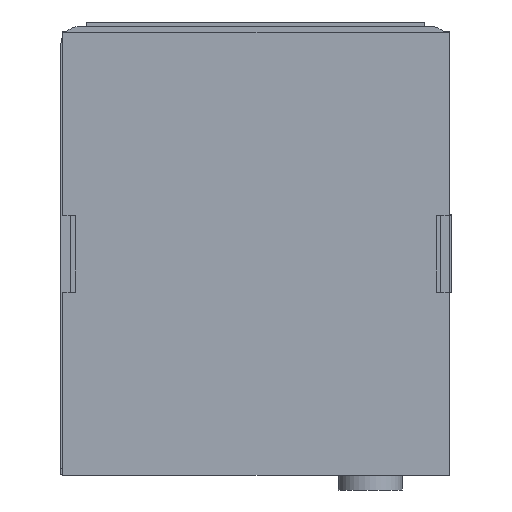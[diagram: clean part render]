
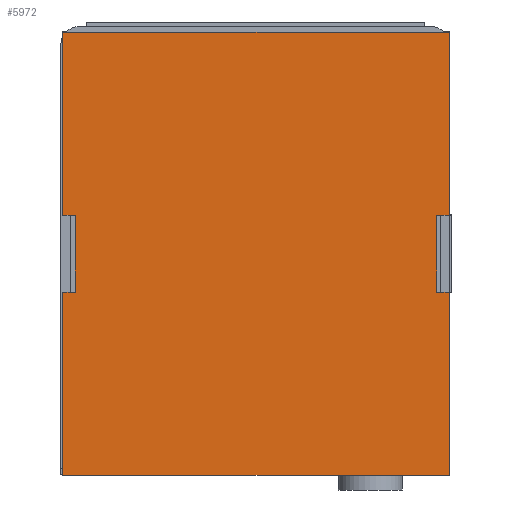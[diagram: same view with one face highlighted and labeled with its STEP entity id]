
A CAD part, left-side view. The second image highlights one B-rep face of the part: STEP entity #5972.
In plain terms, the highlighted planar face has unit normal (-1, 0, 0) as drawn and (0, 0, 1) by its records, which use the part's own axes.
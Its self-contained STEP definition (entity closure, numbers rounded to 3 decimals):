
#4323=DIRECTION('',(0.,-1.,0.));
#4324=VECTOR('',#4323,1.4);
#4325=CARTESIAN_POINT('',(4.2,21.15,0.));
#4326=LINE('',#4325,#4324);
#4330=DIRECTION('',(-1.,0.,0.));
#4331=VECTOR('',#4330,20.05);
#4332=CARTESIAN_POINT('',(24.25,21.15,0.));
#4333=LINE('',#4332,#4331);
#4337=DIRECTION('',(0.,1.,0.));
#4338=VECTOR('',#4337,42.3);
#4339=CARTESIAN_POINT('',(24.25,-21.15,0.));
#4340=LINE('',#4339,#4338);
#4344=DIRECTION('',(1.,0.,0.));
#4345=VECTOR('',#4344,20.05);
#4346=CARTESIAN_POINT('',(4.2,-21.15,0.));
#4347=LINE('',#4346,#4345);
#4351=DIRECTION('',(0.,1.,0.));
#4352=VECTOR('',#4351,1.4);
#4353=CARTESIAN_POINT('',(4.2,-21.15,0.));
#4354=LINE('',#4353,#4352);
#4358=DIRECTION('',(1.,0.,0.));
#4359=VECTOR('',#4358,8.4);
#4360=CARTESIAN_POINT('',(-4.2,-19.75,0.));
#4361=LINE('',#4360,#4359);
#4365=DIRECTION('',(0.,1.,0.));
#4366=VECTOR('',#4365,1.4);
#4367=CARTESIAN_POINT('',(-4.2,-21.15,0.));
#4368=LINE('',#4367,#4366);
#4372=DIRECTION('',(1.,0.,0.));
#4373=VECTOR('',#4372,20.05);
#4374=CARTESIAN_POINT('',(-24.25,-21.15,0.));
#4375=LINE('',#4374,#4373);
#4379=DIRECTION('',(0.,-1.,0.));
#4380=VECTOR('',#4379,42.3);
#4381=CARTESIAN_POINT('',(-24.25,21.15,0.));
#4382=LINE('',#4381,#4380);
#4386=DIRECTION('',(-1.,0.,0.));
#4387=VECTOR('',#4386,20.05);
#4388=CARTESIAN_POINT('',(-4.2,21.15,0.));
#4389=LINE('',#4388,#4387);
#4393=DIRECTION('',(0.,-1.,0.));
#4394=VECTOR('',#4393,1.4);
#4395=CARTESIAN_POINT('',(-4.2,21.15,0.));
#4396=LINE('',#4395,#4394);
#4400=DIRECTION('',(-1.,0.,0.));
#4401=VECTOR('',#4400,8.4);
#4402=CARTESIAN_POINT('',(4.2,19.75,0.));
#4403=LINE('',#4402,#4401);
#5685=CARTESIAN_POINT('',(-24.25,21.15,0.));
#5686=CARTESIAN_POINT('',(-24.25,-21.15,0.));
#5687=VERTEX_POINT('',#5685);
#5688=VERTEX_POINT('',#5686);
#5689=CARTESIAN_POINT('',(24.25,-21.15,0.));
#5690=CARTESIAN_POINT('',(24.25,21.15,0.));
#5691=VERTEX_POINT('',#5689);
#5692=VERTEX_POINT('',#5690);
#5853=CARTESIAN_POINT('',(-4.2,-21.15,0.));
#5854=VERTEX_POINT('',#5853);
#5855=CARTESIAN_POINT('',(4.2,-21.15,0.));
#5856=VERTEX_POINT('',#5855);
#5857=CARTESIAN_POINT('',(4.2,21.15,0.));
#5858=VERTEX_POINT('',#5857);
#5859=CARTESIAN_POINT('',(-4.2,21.15,0.));
#5860=VERTEX_POINT('',#5859);
#5861=CARTESIAN_POINT('',(4.2,19.75,0.));
#5862=VERTEX_POINT('',#5861);
#5863=CARTESIAN_POINT('',(-4.2,19.75,0.));
#5864=VERTEX_POINT('',#5863);
#5865=CARTESIAN_POINT('',(-4.2,-19.75,0.));
#5866=VERTEX_POINT('',#5865);
#5867=CARTESIAN_POINT('',(4.2,-19.75,0.));
#5868=VERTEX_POINT('',#5867);
#5941=CARTESIAN_POINT('',(0.,0.,0.));
#5942=DIRECTION('',(0.,0.,1.));
#5943=DIRECTION('',(1.,0.,0.));
#5944=AXIS2_PLACEMENT_3D('',#5941,#5942,#5943);
#5945=PLANE('',#5944);
#5947=ORIENTED_EDGE('',*,*,#5946,.F.);
#5949=ORIENTED_EDGE('',*,*,#5948,.F.);
#5951=ORIENTED_EDGE('',*,*,#5950,.F.);
#5953=ORIENTED_EDGE('',*,*,#5952,.F.);
#5955=ORIENTED_EDGE('',*,*,#5954,.T.);
#5957=ORIENTED_EDGE('',*,*,#5956,.F.);
#5959=ORIENTED_EDGE('',*,*,#5958,.F.);
#5961=ORIENTED_EDGE('',*,*,#5960,.F.);
#5963=ORIENTED_EDGE('',*,*,#5962,.F.);
#5965=ORIENTED_EDGE('',*,*,#5964,.F.);
#5967=ORIENTED_EDGE('',*,*,#5966,.T.);
#5969=ORIENTED_EDGE('',*,*,#5968,.F.);
#5970=EDGE_LOOP('',(#5947,#5949,#5951,#5953,#5955,#5957,#5959,#5961,#5963,#5965,
#5967,#5969));
#5971=FACE_OUTER_BOUND('',#5970,.F.);
#5946=EDGE_CURVE('',#5858,#5862,#4326,.T.);
#5948=EDGE_CURVE('',#5692,#5858,#4333,.T.);
#5950=EDGE_CURVE('',#5691,#5692,#4340,.T.);
#5952=EDGE_CURVE('',#5856,#5691,#4347,.T.);
#5954=EDGE_CURVE('',#5856,#5868,#4354,.T.);
#5956=EDGE_CURVE('',#5866,#5868,#4361,.T.);
#5958=EDGE_CURVE('',#5854,#5866,#4368,.T.);
#5960=EDGE_CURVE('',#5688,#5854,#4375,.T.);
#5962=EDGE_CURVE('',#5687,#5688,#4382,.T.);
#5964=EDGE_CURVE('',#5860,#5687,#4389,.T.);
#5966=EDGE_CURVE('',#5860,#5864,#4396,.T.);
#5968=EDGE_CURVE('',#5862,#5864,#4403,.T.);
#5972=ADVANCED_FACE('',(#5971),#5945,.T.);
